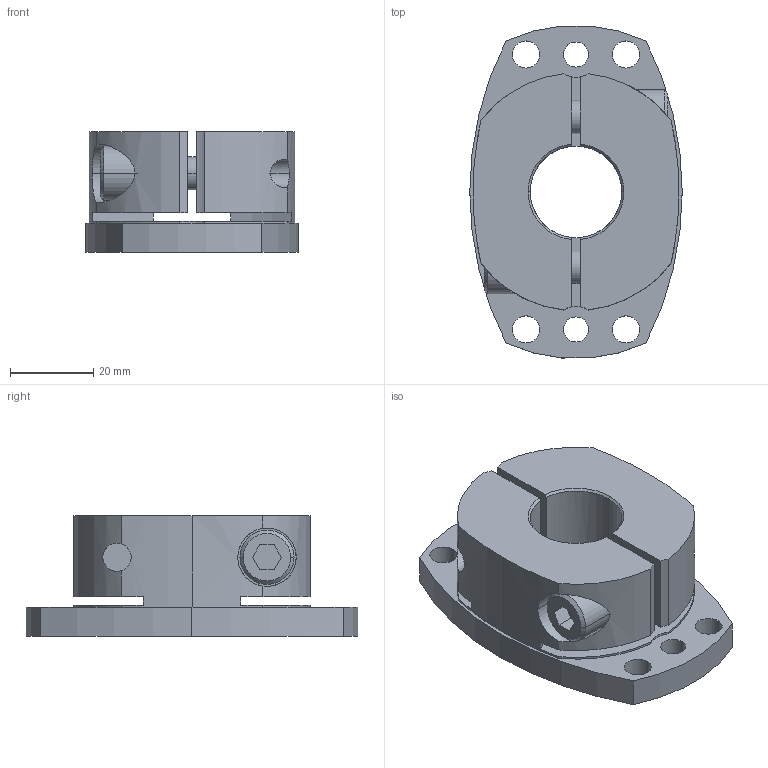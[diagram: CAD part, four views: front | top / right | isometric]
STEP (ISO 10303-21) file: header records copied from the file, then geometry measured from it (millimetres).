
FILE_DESCRIPTION((''),'2;1');
FILE_NAME('SHDB-80B-22.stp','2026-01-28T08:26:42',(''),(''),'AutoCAD STEP 2000i','AutoCAD 2000i',', , ');
FILE_SCHEMA(('CONFIG_CONTROL_DESIGN'));
Length unit declared in the file: millimetre
Products named in the file (2): SHDB-80B-20; 忣兜1
Assembly tree (1 placements, depth 2):
  SHDB-80B-20
    忣兜1
Bounding box: 51 x 79.7 x 29 mm (x, y, z)
Volume: 58936.7 mm3; surface area: 19477.4 mm2
Topology: 1 solids, 1 shells, 102 faces, 280 edges, 184 vertices
Faces by surface type: cylinder 58, plane 34, cone 10
Entity records: 3715 total; most frequent: CARTESIAN_POINT 888, DIRECTION 602, ORIENTED_EDGE 560, EDGE_CURVE 280, AXIS2_PLACEMENT_3D 238, VERTEX_POINT 184, CIRCLE 134, VECTOR 126
